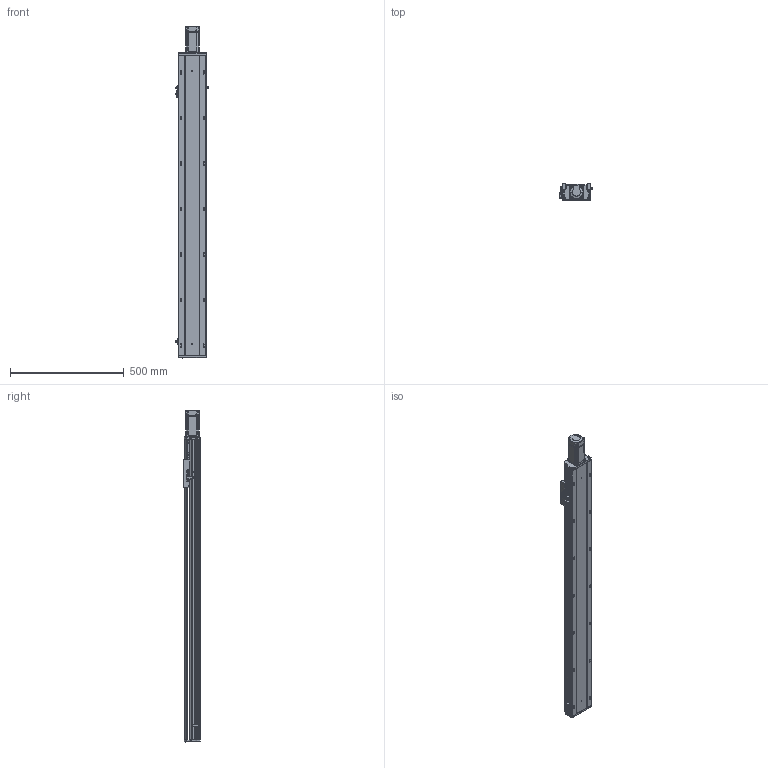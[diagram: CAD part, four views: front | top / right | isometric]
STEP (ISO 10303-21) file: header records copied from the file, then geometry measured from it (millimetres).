
FILE_DESCRIPTION (( 'STEP AP203' ), '1' );
FILE_NAME ('RYK120-L1610-S1050-M40-C3-MK.STEP', '2026-03-09T07:57:43', ( '' ), ( '' ), 'SwSTEP 2.0', 'SolidWorks 2016', '' );
FILE_SCHEMA (( 'CONFIG_CONTROL_DESIGN' ));
Length unit declared in the file: millimetre
Products named in the file (17): RYK120-L1610-S1050-M40-C3-MK; 滅袉蝶18-10; 滅袉蝶18-24; CB╱T 3762-1996[锥形润滑油嘴1-ZM10×1]_1-ZM10×1; 15; RY120QGB-1.8; 2.10.1.C521-V1.0RY120臏賑輸16蹟譫-啞-JZZY-NRL-L1899; 覜茼ん672; 44-49-12-14; RYK120-300-MK-菁釱-啞_1050; RY120外置感应片(140共用）; RY120-16螺母油路-集中注油组合; RY120綴裔啣; RY120电机端支撑座-压铸加工-M5; RYK120-300-MK-奻裔啣-啞_1050; RYK170-薊粣ん芵隴裔啣; 侂狟400W侜督萇儂
Assembly tree (21 placements, depth 3):
  RYK120-L1610-S1050-M40-C3-MK
    RYK120-300-MK-菁釱-啞_1050
    RYK120-300-MK-奻裔啣-啞_1050
    RY120綴裔啣
    滅袉蝶18-24  x2
    滅袉蝶18-10  x2
    覜茼ん672  x3
    RY120外置感应片(140共用）
    RY120QGB-1.8
    RY120-16螺母油路-集中注油组合
      2.10.1.C521-V1.0RY120臏賑輸16蹟譫-啞-JZZY-NRL-L1899
      CB╱T 3762-1996[锥形润滑油嘴1-ZM10×1]_1-ZM10×1  x2
    RY120电机端支撑座-压铸加工-M5
    RYK170-薊粣ん芵隴裔啣
    44-49-12-14
    侂狟400W侜督萇儂
      15
Bounding box: 145.7 x 73 x 1458.5 mm (x, y, z)
Volume: 3812063.5 mm3; surface area: 1356769.7 mm2
Topology: 23 solids, 23 shells, 2634 faces, 7302 edges, 4655 vertices
Faces by surface type: plane 1201, cylinder 1023, cone 283, bspline 127
Entity records: 87466 total; most frequent: CARTESIAN_POINT 25112, ORIENTED_EDGE 13072, DIRECTION 12035, EDGE_CURVE 6536, VERTEX_POINT 4267, AXIS2_PLACEMENT_3D 4142, VECTOR 3751, LINE 3751
